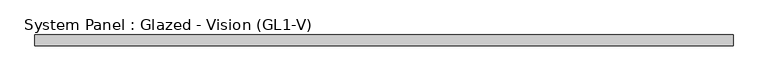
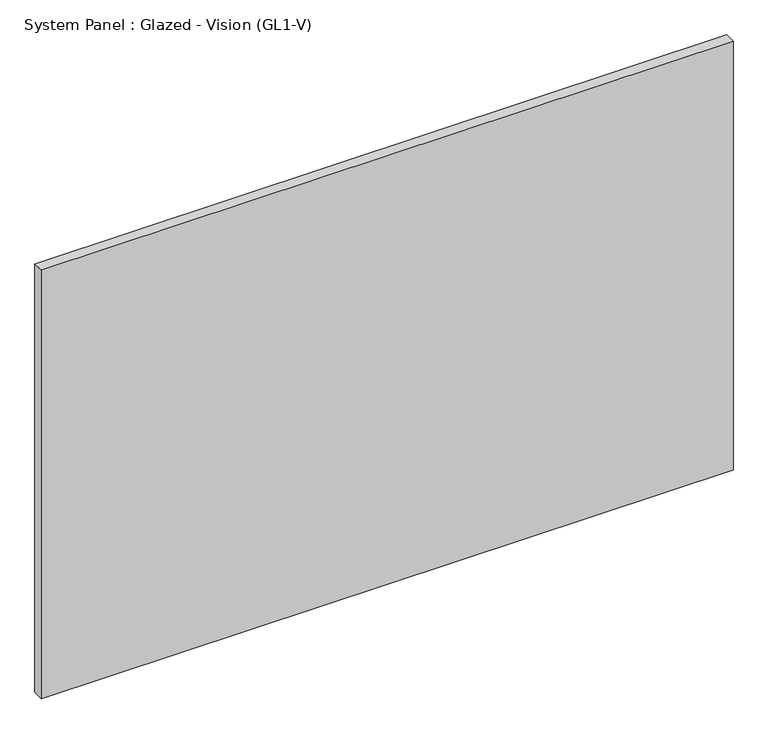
"""IFC4 building model written with IfcOpenShell, lengths in millimetres: plate geometry, System Panel : Glazed - Vision (GL1-V)."""

from ifc_helpers import new_model, si_unit, origin, origin_with_axes, place, context, project, spatial, polyline, outline, extrude, source, transform, mapped, element, save


def system_panel_glazed_vision_gl1_v_b3154d17(model_context):
    return source(origin(), model_context, "Body", "SweptSolid", [
        extrude(outline(polyline([(813.9193889, -25.4), (-813.9193889, -25.4), (-813.9193889, 0.0), (813.9193889, 0.0), (813.9193889, -25.4)])), origin_with_axes(), (0.0, 0.0, 1.0), 1066.8000021),
    ])


if __name__ == "__main__":
    model = new_model("IFC4")
    model_context = context("Model", 3, world=origin())
    ifc_project = project(units=[si_unit("LENGTHUNIT", "METRE", prefix="MILLI")], contexts=[model_context])
    site = spatial("IfcSite", under=ifc_project)
    building = spatial("IfcBuilding", under=site)
    placement = place(None, origin())
    system_panel_glazed_vision_gl1_v_shape = system_panel_glazed_vision_gl1_v_b3154d17(model_context)
    element("IfcPlate", 1, ObjectType="System Panel : Glazed - Vision (GL1-V)", at=placement, inside=building, context=model_context, shape_type="MappedRepresentation", body=[
        mapped(system_panel_glazed_vision_gl1_v_shape, transform((0.0, 0.0, 0.0), x_axis=(1.0, 0.0, 0.0), y_axis=(0.0, 1.0, 0.0), z_axis=(0.0, 0.0, 1.0))),
    ])
    save(model, "model.ifc")
